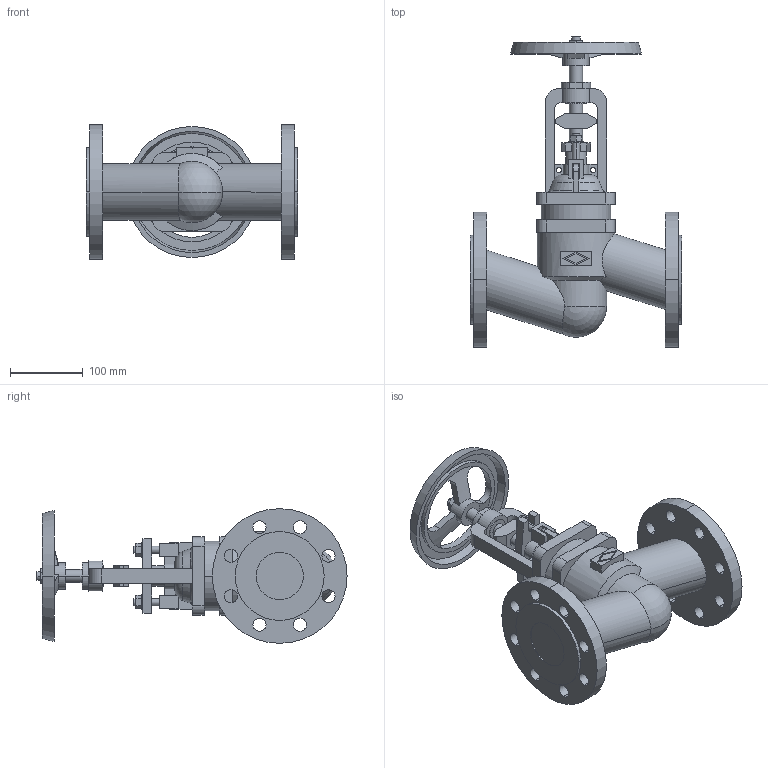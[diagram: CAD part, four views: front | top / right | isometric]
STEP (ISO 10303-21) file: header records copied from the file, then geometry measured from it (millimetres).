
FILE_DESCRIPTION(('OneSpaceDesigner STEP Export'),'2;1');
FILE_NAME('c000003752.stp','2009-06-16T10:59:33',(''),(''),'OneSpace Designer STEP processor for AP214 (Solid Model)','OneSpace Modeling 15.50B 03-Nov-2007 (C) CoCreate Software GmbH','');
FILE_SCHEMA(('AUTOMOTIVE_DESIGN { 1 0 10303 214 1 1 1 1 }'));
Length unit declared in the file: millimetre
Products named in the file (1): 1
Bounding box: 290 x 425.9 x 185 mm (x, y, z)
Volume: 3773929.9 mm3; surface area: 365954.9 mm2
Topology: 1 solids, 1 shells, 305 faces, 817 edges, 536 vertices
Faces by surface type: plane 148, cylinder 123, cone 20, torus 12, sphere 2
Entity records: 12286 total; most frequent: CARTESIAN_POINT 2580, ORIENTED_EDGE 1630, DIRECTION 1321, EDGE_CURVE 815, VERTEX_POINT 536, AXIS2_PLACEMENT_3D 444, VECTOR 433, LINE 433
